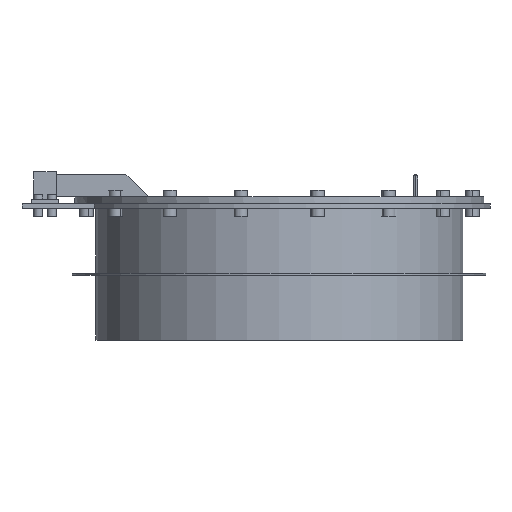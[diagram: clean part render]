
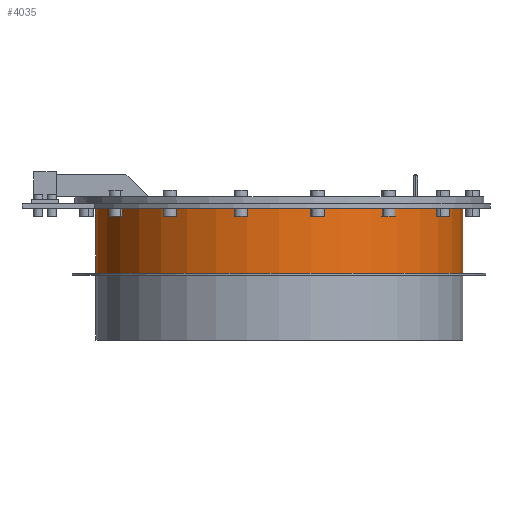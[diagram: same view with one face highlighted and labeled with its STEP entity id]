
A CAD part, front view. The second image highlights one B-rep face of the part: STEP entity #4035.
In plain terms, the highlighted cylindrical face has radius 404 mm (diameter 808 mm), a partial arc.
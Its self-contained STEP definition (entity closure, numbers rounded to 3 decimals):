
#1211=DIRECTION('',(0.,0.,-1.));
#1212=VECTOR('',#1211,143.);
#1213=CARTESIAN_POINT('',(404.,0.,-10.));
#1214=LINE('',#1213,#1212);
#1257=CARTESIAN_POINT('',(0.,0.,-153.));
#1258=DIRECTION('',(0.,0.,-1.));
#1259=DIRECTION('',(1.,0.,0.));
#1260=AXIS2_PLACEMENT_3D('',#1257,#1258,#1259);
#1262=DIRECTION('',(0.,0.,-1.));
#1263=VECTOR('',#1262,143.);
#1264=CARTESIAN_POINT('',(-404.,0.,-10.));
#1265=LINE('',#1264,#1263);
#1266=CARTESIAN_POINT('',(0.,0.,-10.));
#1267=DIRECTION('',(0.,0.,1.));
#1268=DIRECTION('',(-1.,0.,0.));
#1269=AXIS2_PLACEMENT_3D('',#1266,#1267,#1268);
#2163=CARTESIAN_POINT('',(404.,0.,-10.));
#2164=CARTESIAN_POINT('',(-404.,0.,-10.));
#2165=VERTEX_POINT('',#2163);
#2166=VERTEX_POINT('',#2164);
#2179=CARTESIAN_POINT('',(-404.,0.,-153.));
#2180=CARTESIAN_POINT('',(404.,0.,-153.));
#2181=VERTEX_POINT('',#2179);
#2182=VERTEX_POINT('',#2180);
#4024=CARTESIAN_POINT('',(0.,0.,0.));
#4025=DIRECTION('',(0.,0.,1.));
#4026=DIRECTION('',(1.,0.,0.));
#4027=AXIS2_PLACEMENT_3D('',#4024,#4025,#4026);
#4028=CYLINDRICAL_SURFACE('',#4027,404.);
#4029=ORIENTED_EDGE('',*,*,#3999,.T.);
#4030=ORIENTED_EDGE('',*,*,#3932,.F.);
#4031=ORIENTED_EDGE('',*,*,#3744,.T.);
#4032=ORIENTED_EDGE('',*,*,#3929,.T.);
#4033=EDGE_LOOP('',(#4029,#4030,#4031,#4032));
#4034=FACE_OUTER_BOUND('',#4033,.F.);
#1261=CIRCLE('',#1260,404.);
#1270=CIRCLE('',#1269,404.);
#3744=EDGE_CURVE('',#2166,#2165,#1270,.T.);
#3929=EDGE_CURVE('',#2165,#2182,#1214,.T.);
#3932=EDGE_CURVE('',#2166,#2181,#1265,.T.);
#3999=EDGE_CURVE('',#2182,#2181,#1261,.T.);
#4035=ADVANCED_FACE('',(#4034),#4028,.T.);
